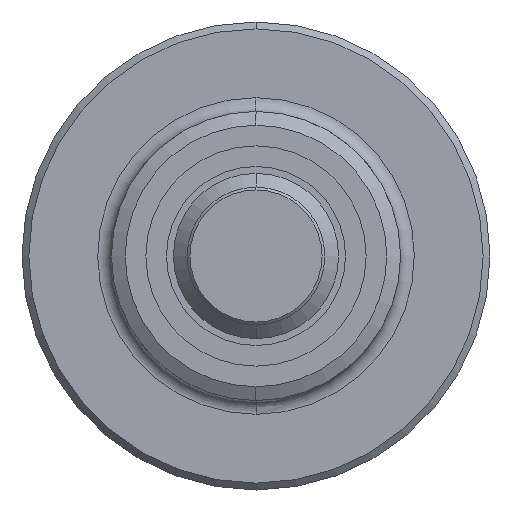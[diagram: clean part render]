
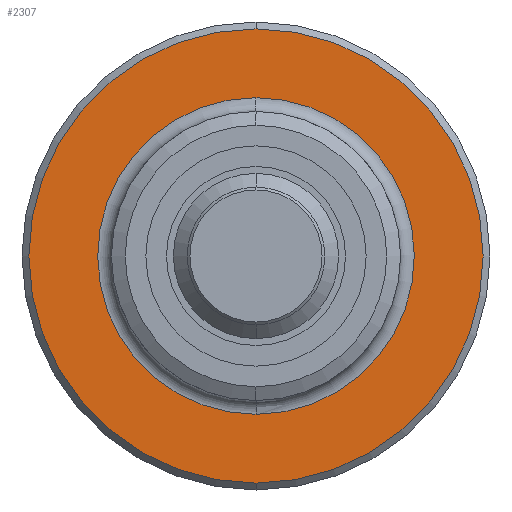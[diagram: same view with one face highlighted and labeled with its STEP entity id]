
A CAD part, left-side view. The second image highlights one B-rep face of the part: STEP entity #2307.
In plain terms, the highlighted planar face has unit normal (-1, 0, 0).
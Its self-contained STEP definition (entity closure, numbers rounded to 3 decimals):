
#332=CARTESIAN_POINT('',(-4.,0.,
0.));
#333=DIRECTION('',(1.,0.,0.));
#334=DIRECTION('',(0.,0.,1.));
#335=AXIS2_PLACEMENT_3D('',#332,#333,#334);
#337=CARTESIAN_POINT('',(-4.,0.,0.));
#338=DIRECTION('',(1.,0.,0.));
#339=DIRECTION('',(0.,0.,-1.));
#340=AXIS2_PLACEMENT_3D('',#337,#338,#339);
#342=CARTESIAN_POINT('',(-4.,0.,0.));
#343=DIRECTION('',(-1.,0.,0.));
#344=DIRECTION('',(0.,0.,1.));
#345=AXIS2_PLACEMENT_3D('',#342,#343,#344);
#347=CARTESIAN_POINT('',(-4.,0.,0.));
#348=DIRECTION('',(-1.,0.,0.));
#349=DIRECTION('',(0.,0.01,1.));
#350=AXIS2_PLACEMENT_3D('',#347,#348,#349);
#352=CARTESIAN_POINT('',(-4.,0.,0.));
#353=DIRECTION('',(-1.,0.,0.));
#354=DIRECTION('',(0.,0.,-1.));
#355=AXIS2_PLACEMENT_3D('',#352,#353,#354);
#357=CARTESIAN_POINT('',(-4.,0.,0.));
#358=DIRECTION('',(-1.,0.,0.));
#359=DIRECTION('',(0.,-0.01,-1.));
#360=AXIS2_PLACEMENT_3D('',#357,#358,#359);
#1748=CARTESIAN_POINT('',(-4.,0.,
-16.5));
#1749=CARTESIAN_POINT('',(-4.,0.,16.5));
#1750=VERTEX_POINT('',#1748);
#1751=VERTEX_POINT('',#1749);
#1752=CARTESIAN_POINT('',(-4.,0.116,11.499));
#1753=CARTESIAN_POINT('',(-4.,0.,-11.5));
#1754=VERTEX_POINT('',#1752);
#1755=VERTEX_POINT('',#1753);
#1756=CARTESIAN_POINT('',(-4.,0.,11.5));
#1757=VERTEX_POINT('',#1756);
#1758=CARTESIAN_POINT('',(-4.,-0.116,-11.499));
#1759=VERTEX_POINT('',#1758);
#2287=CARTESIAN_POINT('',(-4.,0.,0.));
#2288=DIRECTION('',(1.,0.,0.));
#2289=DIRECTION('',(0.,0.,1.));
#2290=AXIS2_PLACEMENT_3D('',#2287,#2288,#2289);
#2291=PLANE('',#2290);
#2293=ORIENTED_EDGE('',*,*,#2292,.T.);
#2294=ORIENTED_EDGE('',*,*,#2277,.T.);
#2295=EDGE_LOOP('',(#2293,#2294));
#2296=FACE_OUTER_BOUND('',#2295,.F.);
#2298=ORIENTED_EDGE('',*,*,#2297,.T.);
#2300=ORIENTED_EDGE('',*,*,#2299,.T.);
#2302=ORIENTED_EDGE('',*,*,#2301,.T.);
#2304=ORIENTED_EDGE('',*,*,#2303,.T.);
#2305=EDGE_LOOP('',(#2298,#2300,#2302,#2304));
#2306=FACE_BOUND('',#2305,.F.);
#2307=ADVANCED_FACE('',(#2296,#2306),#2291,.F.);
#336=CIRCLE('',#335,16.5);
#341=CIRCLE('',#340,16.5);
#346=CIRCLE('',#345,11.5);
#351=CIRCLE('',#350,11.5);
#356=CIRCLE('',#355,11.5);
#361=CIRCLE('',#360,11.5);
#2277=EDGE_CURVE('',#1750,#1751,#341,.T.);
#2292=EDGE_CURVE('',#1751,#1750,#336,.T.);
#2297=EDGE_CURVE('',#1757,#1754,#346,.T.);
#2299=EDGE_CURVE('',#1754,#1755,#351,.T.);
#2301=EDGE_CURVE('',#1755,#1759,#356,.T.);
#2303=EDGE_CURVE('',#1759,#1757,#361,.T.);
